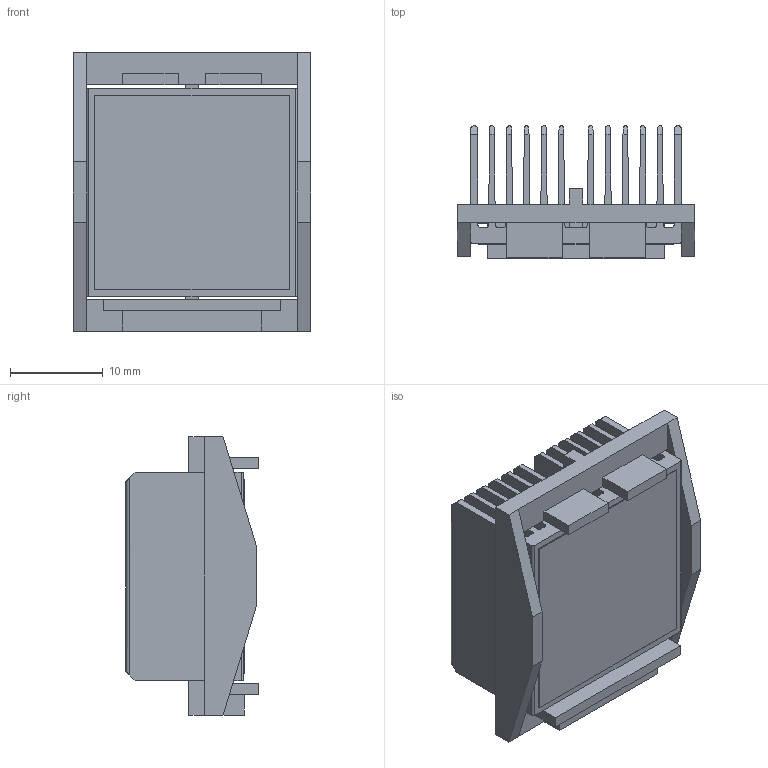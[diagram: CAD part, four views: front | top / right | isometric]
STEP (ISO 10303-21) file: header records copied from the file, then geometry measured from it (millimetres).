
FILE_DESCRIPTION (( 'STEP AP214' ), '1' );
FILE_NAME ('INL23001-13-1.7BU.STEP', '2023-02-21T17:22:30', ( '' ), ( '' ), 'SwSTEP 2.0', 'SolidWorks 2020', '' );
FILE_SCHEMA (( 'AUTOMOTIVE_DESIGN' ));
Length unit declared in the file: millimetre
Products named in the file (1): INL23001-13-1.7BU
Bounding box: 25.7 x 14.3 x 30.1 mm (x, y, z)
Volume: 3806.6 mm3; surface area: 9620.6 mm2
Topology: 3 solids, 3 shells, 152 faces, 440 edges, 292 vertices
Faces by surface type: plane 116, cylinder 36
Entity records: 6668 total; most frequent: CARTESIAN_POINT 957, ORIENTED_EDGE 880, DIRECTION 770, EDGE_CURVE 440, LINE 368, VECTOR 368, VERTEX_POINT 292, AXIS2_PLACEMENT_3D 201
